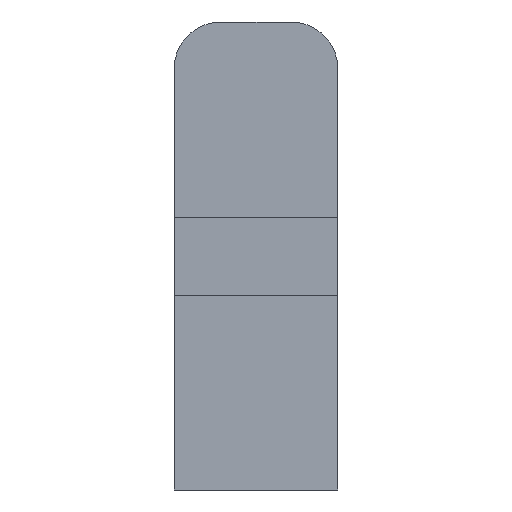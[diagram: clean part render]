
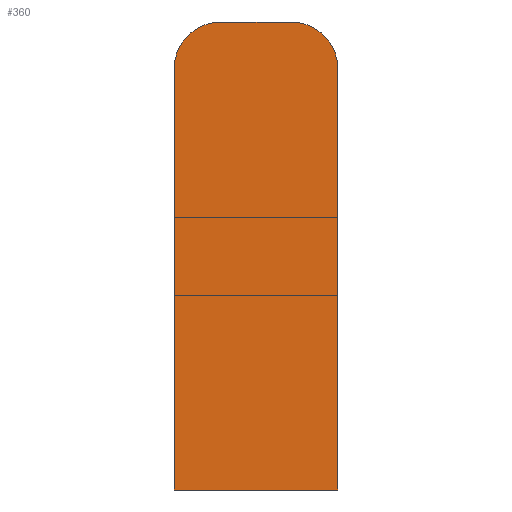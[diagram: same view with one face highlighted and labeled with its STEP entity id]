
A CAD part, front view. The second image highlights one B-rep face of the part: STEP entity #360.
In plain terms, the highlighted planar face has unit normal (0, -1, 0).
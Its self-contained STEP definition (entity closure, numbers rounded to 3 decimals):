
#24 = CARTESIAN_POINT ( 'NONE',  ( -5.25, 0., -16.5 ) ) ;
#25 = DIRECTION ( 'NONE',  ( 0., 0., -1. ) ) ;
#60 = PLANE ( 'NONE',  #290 ) ;
#64 = CARTESIAN_POINT ( 'NONE',  ( 0., 0., -1.5 ) ) ;
#70 = DIRECTION ( 'NONE',  ( 0., 1., 0. ) ) ;
#71 = DIRECTION ( 'NONE',  ( -1., 0., 0. ) ) ;
#135 = VERTEX_POINT ( 'NONE', #153 ) ;
#136 = DIRECTION ( 'NONE',  ( 0., 0., 1. ) ) ;
#141 = VERTEX_POINT ( 'NONE', #156 ) ;
#144 = VERTEX_POINT ( 'NONE', #159 ) ;
#153 = CARTESIAN_POINT ( 'NONE',  ( -2.25, 0., 13.5 ) ) ;
#156 = CARTESIAN_POINT ( 'NONE',  ( 5.25, 0., 10.5 ) ) ;
#159 = CARTESIAN_POINT ( 'NONE',  ( 2.25, 0., 13.5 ) ) ;
#164 = CARTESIAN_POINT ( 'NONE',  ( 5.25, 0., -16.5 ) ) ;
#165 = CARTESIAN_POINT ( 'NONE',  ( -5.25, 0., -16.5 ) ) ;
#168 = CARTESIAN_POINT ( 'NONE',  ( -5.25, 0., 10.5 ) ) ;
#184 = CARTESIAN_POINT ( 'NONE',  ( 5.25, 0., -16.5 ) ) ;
#187 = CARTESIAN_POINT ( 'NONE',  ( -2.25, 0., 10.5 ) ) ;
#188 = DIRECTION ( 'NONE',  ( 0., -1., 0. ) ) ;
#189 = DIRECTION ( 'NONE',  ( -1., 0., 0. ) ) ;
#199 = DIRECTION ( 'NONE',  ( 1., 0., 0. ) ) ;
#206 = CARTESIAN_POINT ( 'NONE',  ( 2.25, 0., 13.5 ) ) ;
#214 = CARTESIAN_POINT ( 'NONE',  ( 5.25, 0., -16.5 ) ) ;
#220 = VERTEX_POINT ( 'NONE', #164 ) ;
#221 = CARTESIAN_POINT ( 'NONE',  ( 2.25, 0., 10.5 ) ) ;
#222 = VERTEX_POINT ( 'NONE', #165 ) ;
#234 = VERTEX_POINT ( 'NONE', #168 ) ;
#237 = DIRECTION ( 'NONE',  ( -1., 0., 0. ) ) ;
#243 = DIRECTION ( 'NONE',  ( 0., -1., 0. ) ) ;
#244 = DIRECTION ( 'NONE',  ( -1., 0., 0. ) ) ;
#273 = EDGE_CURVE ( 'NONE', #135, #234, #468, .T. ) ;
#279 = EDGE_CURVE ( 'NONE', #222, #220, #476, .T. ) ;
#290 = AXIS2_PLACEMENT_3D ( 'NONE', #64, #70, #71 ) ;
#293 = EDGE_CURVE ( 'NONE', #144, #135, #516, .T. ) ;
#297 = EDGE_CURVE ( 'NONE', #220, #141, #519, .T. ) ;
#305 = EDGE_CURVE ( 'NONE', #141, #144, #531, .T. ) ;
#320 = AXIS2_PLACEMENT_3D ( 'NONE', #187, #188, #189 ) ;
#330 = AXIS2_PLACEMENT_3D ( 'NONE', #221, #243, #244 ) ;
#346 = EDGE_CURVE ( 'NONE', #234, #222, #405, .T. ) ;
#360 = ADVANCED_FACE ( 'NONE', ( #579 ), #60, .F. ) ;
#392 = VECTOR ( 'NONE', #199, 1000. ) ;
#405 = LINE ( 'NONE', #24, #563 ) ;
#409 = EDGE_LOOP ( 'NONE', ( #438, #440, #441, #442, #443, #600 ) ) ;
#438 = ORIENTED_EDGE ( 'NONE', *, *, #297, .T. ) ;
#440 = ORIENTED_EDGE ( 'NONE', *, *, #305, .T. ) ;
#441 = ORIENTED_EDGE ( 'NONE', *, *, #293, .T. ) ;
#442 = ORIENTED_EDGE ( 'NONE', *, *, #273, .T. ) ;
#443 = ORIENTED_EDGE ( 'NONE', *, *, #346, .T. ) ;
#468 = CIRCLE ( 'NONE', #320, 3. ) ;
#474 = VECTOR ( 'NONE', #237, 1000. ) ;
#476 = LINE ( 'NONE', #184, #392 ) ;
#516 = LINE ( 'NONE', #206, #474 ) ;
#519 = LINE ( 'NONE', #214, #521 ) ;
#521 = VECTOR ( 'NONE', #136, 1000. ) ;
#531 = CIRCLE ( 'NONE', #330, 3. ) ;
#563 = VECTOR ( 'NONE', #25, 1000. ) ;
#579 = FACE_OUTER_BOUND ( 'NONE', #409, .T. ) ;
#600 = ORIENTED_EDGE ( 'NONE', *, *, #279, .T. ) ;
